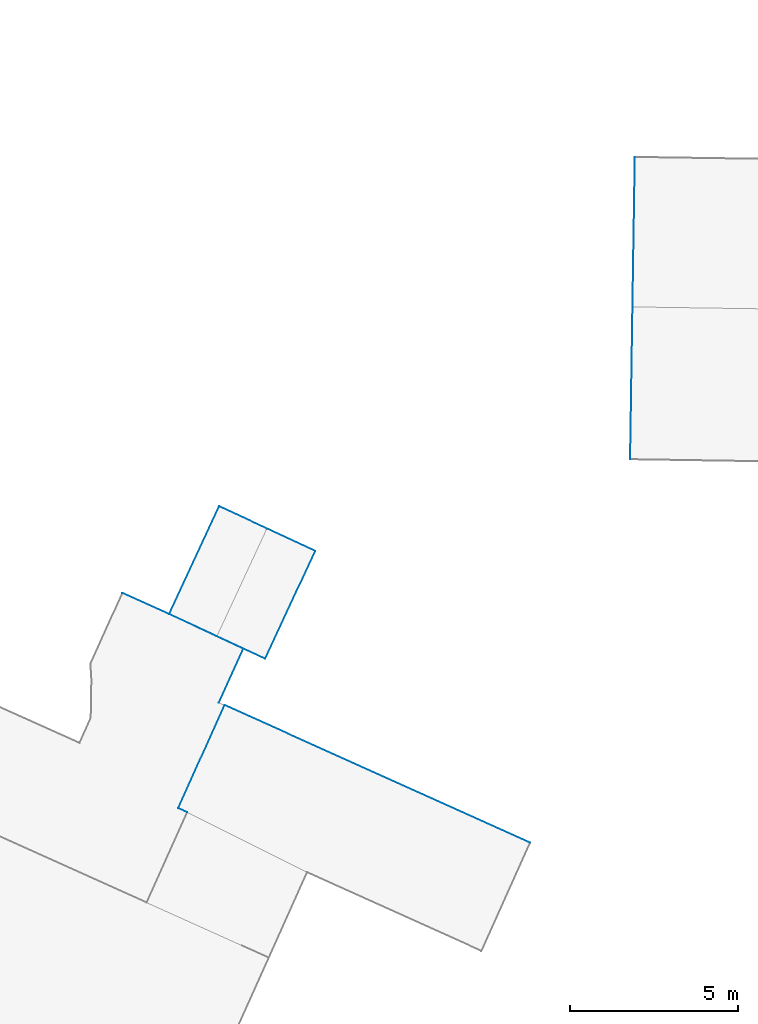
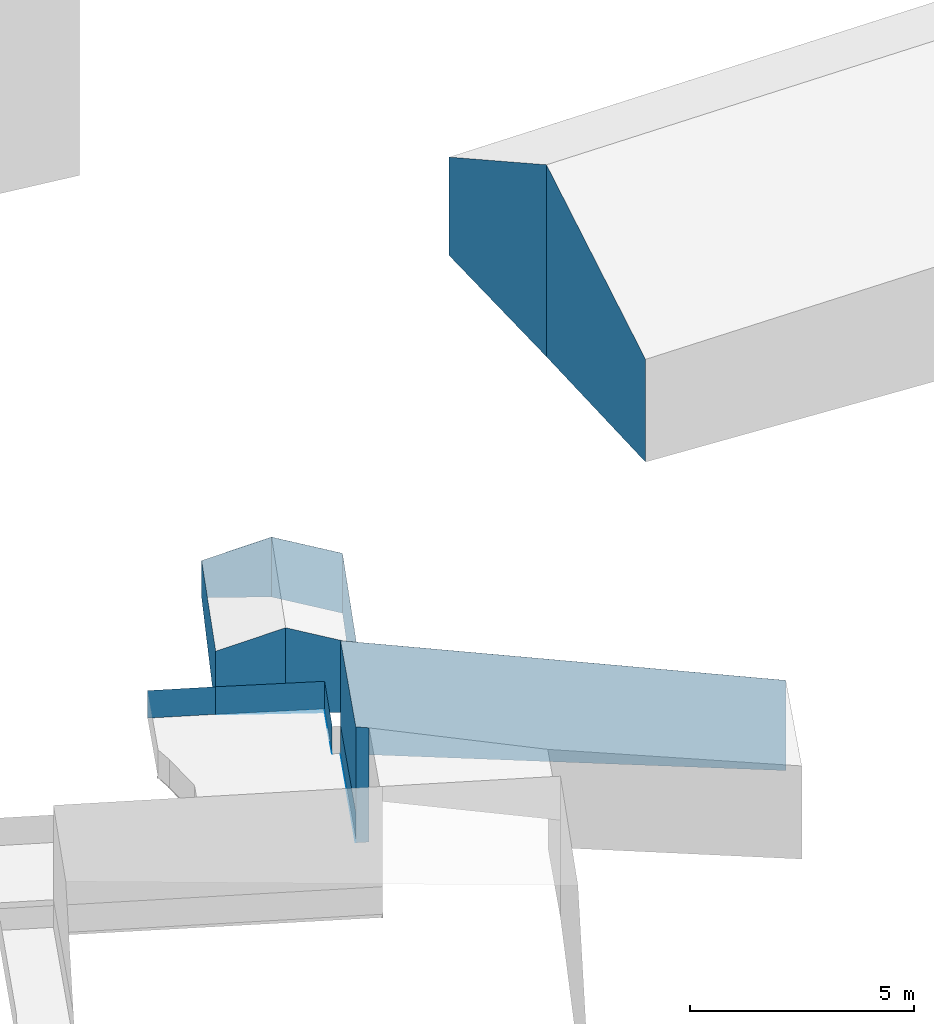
# Not in any storey, part 59 of 136: 22 walls.
"""IFC4 building model written with IfcOpenShell, lengths in metres."""

from ifc_helpers import new_model, entity, si_unit, converted_unit, frame, origin, place, context, subcontext, project, spatial, face_set, surface_model, element, save


model = new_model("IFC4")

# Units and contexts
model_context = context("Model", 3, precision=1e-05, world=origin())
body_context = subcontext(model_context, "Body", "Model", "MODEL_VIEW")
ifc_project = project(units=[converted_unit("PLANEANGLEUNIT", "DEGREE", entity("IfcRatioMeasure", 0.0174532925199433), si_unit("PLANEANGLEUNIT", "RADIAN"), dimensions=[0, 0, 0, 0, 0, 0, 0]), si_unit("AREAUNIT", "SQUARE_METRE"), si_unit("LENGTHUNIT", "METRE")], contexts=[model_context])

# Site, building
site_placement = place(None, origin())
site = spatial("IfcSite", under=ifc_project, at=site_placement, Name="_site")
building_1_placement = place(site_placement, origin())
building_1 = spatial("IfcBuilding", under=site, at=building_1_placement, Name="_building")

# Walls
wall_1_placement = place(building_1_placement, origin())
element("IfcWall", 1, at=wall_1_placement, inside=building_1, Name="Wall", PredefinedType="NOTDEFINED", context=body_context, shape_type="SurfaceModel", body=[
    surface_model("IfcFaceBasedSurfaceModel", [(118.57, 105.12, 45.01), (120.06, 108.33, 45.01), (120.06, 108.33, 44.0), (118.57, 105.12, 43.287)], [face_set([[[0, 1, 2, 3]]])]),
])
wall_2_placement = place(building_1_placement, origin())
element("IfcWall", 2, at=wall_2_placement, inside=building_1, Name="Wall", PredefinedType="NOTDEFINED", context=body_context, shape_type="SurfaceModel", body=[
    surface_model("IfcFaceBasedSurfaceModel", [(119.99, 104.46, 45.55), (118.57, 105.12, 45.01), (118.57, 105.12, 43.287), (119.99, 104.46, 43.29)], [face_set([[[0, 1, 2, 3]]])]),
])
wall_3_placement = place(building_1_placement, origin())
element("IfcWall", 3, at=wall_3_placement, inside=building_1, Name="Wall", PredefinedType="NOTDEFINED", context=body_context, shape_type="SurfaceModel", body=[
    surface_model("IfcFaceBasedSurfaceModel", [(121.48, 107.67, 45.55), (122.92, 107.0, 45.01), (122.92, 107.0, 43.379), (121.48, 107.67, 43.917)], [face_set([[[0, 1, 2, 3]]])]),
])
wall_4_placement = place(building_1_placement, origin())
element("IfcWall", 4, at=wall_4_placement, inside=building_1, Name="Wall", PredefinedType="NOTDEFINED", context=body_context, shape_type="SurfaceModel", body=[
    surface_model("IfcFaceBasedSurfaceModel", [(118.57, 105.12, 43.29), (120.78, 104.09, 43.29), (120.78, 104.09, 44.04), (118.57, 105.12, 44.04)], [face_set([[[0, 1, 2, 3]]])]),
])
wall_5_placement = place(building_1_placement, origin())
element("IfcWall", 5, at=wall_5_placement, inside=building_1, Name="Wall", PredefinedType="NOTDEFINED", context=body_context, shape_type="SurfaceModel", body=[
    surface_model("IfcFaceBasedSurfaceModel", [(118.57, 105.12, 43.29), (120.78, 104.09, 43.29), (120.78, 104.09, 43.194), (118.57, 105.12, 43.287)], [face_set([[[0, 1, 2, 3]]])]),
])
wall_6_placement = place(building_1_placement, origin())
element("IfcWall", 6, at=wall_6_placement, inside=building_1, Name="Wall", PredefinedType="NOTDEFINED", context=body_context, shape_type="SurfaceModel", body=[
    surface_model("IfcFaceBasedSurfaceModel", [(120.06, 108.33, 45.01), (121.48, 107.67, 45.55), (121.48, 107.67, 43.917), (120.06, 108.33, 44.0)], [face_set([[[0, 1, 2, 3]]])]),
])
wall_7_placement = place(building_1_placement, origin())
element("IfcWall", 7, at=wall_7_placement, inside=building_1, Name="Wall", PredefinedType="NOTDEFINED", context=body_context, shape_type="SurfaceModel", body=[
    surface_model("IfcFaceBasedSurfaceModel", [(118.57, 105.12, 43.29), (120.78, 104.09, 43.29), (120.78, 104.09, 44.04), (118.57, 105.12, 44.04)], [face_set([[[0, 1, 2, 3]]])]),
])
wall_8_placement = place(building_1_placement, origin())
element("IfcWall", 8, at=wall_8_placement, inside=building_1, Name="Wall", PredefinedType="NOTDEFINED", context=body_context, shape_type="SurfaceModel", body=[
    surface_model("IfcFaceBasedSurfaceModel", [(122.92, 107.0, 45.01), (121.43, 103.79, 45.01), (121.43, 103.79, 43.124), (122.92, 107.0, 43.379)], [face_set([[[0, 1, 2, 3]]])]),
])
wall_9_placement = place(building_1_placement, origin())
element("IfcWall", 9, at=wall_9_placement, inside=building_1, Name="Wall", PredefinedType="NOTDEFINED", context=body_context, shape_type="SurfaceModel", body=[
    surface_model("IfcFaceBasedSurfaceModel", [(121.43, 103.79, 45.01), (119.99, 104.46, 45.55), (119.99, 104.46, 43.29), (121.43, 103.79, 43.124)], [face_set([[[0, 1, 2, 3]]])]),
])

# Building
building_2_placement = place(site_placement, origin())
building_2 = spatial("IfcBuilding", under=site, at=building_2_placement, Name="_building")

# Walls
wall_10_placement = place(building_2_placement, origin())
element("IfcWall", 10, at=wall_10_placement, inside=building_2, Name="Wall", PredefinedType="NOTDEFINED", context=body_context, shape_type="SurfaceModel", body=[
    surface_model("IfcFaceBasedSurfaceModel", [(117.18, 105.75, 43.29), (118.57, 105.12, 43.29), (118.57, 105.12, 44.04), (117.18, 105.75, 44.04)], [face_set([[[0, 1, 2, 3]]])]),
])
wall_11_placement = place(building_2_placement, origin())
element("IfcWall", 11, at=wall_11_placement, inside=building_2, Name="Wall", PredefinedType="NOTDEFINED", context=body_context, shape_type="SurfaceModel", body=[
    surface_model("IfcFaceBasedSurfaceModel", [(120.78, 104.09, 43.29), (120.05, 102.49, 43.29), (120.05, 102.49, 44.04), (120.78, 104.09, 44.04)], [face_set([[[0, 1, 2, 3]]])]),
])
wall_12_placement = place(building_2_placement, origin())
element("IfcWall", 12, at=wall_12_placement, inside=building_2, Name="Wall", PredefinedType="NOTDEFINED", context=body_context, shape_type="SurfaceModel", body=[
    surface_model("IfcFaceBasedSurfaceModel", [(117.18, 105.75, 43.29), (118.57, 105.12, 43.29), (118.57, 105.12, 44.04), (117.18, 105.75, 44.04)], [face_set([[[0, 1, 2, 3]]])]),
])
wall_13_placement = place(building_2_placement, origin())
element("IfcWall", 13, at=wall_13_placement, inside=building_2, Name="Wall", PredefinedType="NOTDEFINED", context=body_context, shape_type="SurfaceModel", body=[
    surface_model("IfcFaceBasedSurfaceModel", [(120.78, 104.09, 43.29), (120.05, 102.49, 43.29), (120.05, 102.49, 43.281), (120.78, 104.09, 43.194)], [face_set([[[0, 1, 2, 3]]])]),
])
wall_14_placement = place(building_2_placement, origin())
element("IfcWall", 14, at=wall_14_placement, inside=building_2, Name="Wall", PredefinedType="NOTDEFINED", context=body_context, shape_type="SurfaceModel", body=[
    surface_model("IfcFaceBasedSurfaceModel", [(120.78, 104.09, 43.29), (120.05, 102.49, 43.29), (120.05, 102.49, 44.04), (120.78, 104.09, 44.04)], [face_set([[[0, 1, 2, 3]]])]),
])

# Building
building_3_placement = place(site_placement, origin())
building_3 = spatial("IfcBuilding", under=site, at=building_3_placement, Name="_building")

# Walls
wall_15_placement = place(building_3_placement, origin())
element("IfcWall", 15, at=wall_15_placement, inside=building_3, Name="Wall", PredefinedType="NOTDEFINED", context=body_context, shape_type="SurfaceModel", body=[
    surface_model("IfcFaceBasedSurfaceModel", [(132.37, 114.271, 47.87), (132.44, 118.73, 45.35), (132.44, 118.73, 42.671), (132.37, 114.271, 42.646)], [face_set([[[0, 1, 2, 3]]])]),
])
wall_16_placement = place(building_3_placement, origin())
element("IfcWall", 16, at=wall_16_placement, inside=building_3, Name="Wall", PredefinedType="NOTDEFINED", context=body_context, shape_type="SurfaceModel", body=[
    surface_model("IfcFaceBasedSurfaceModel", [(132.3, 109.73, 45.35), (132.37, 114.271, 47.87), (132.37, 114.271, 42.646), (132.3, 109.73, 42.555)], [face_set([[[0, 1, 2, 3]]])]),
])

# Building
building_4_placement = place(site_placement, origin())
building_4 = spatial("IfcBuilding", under=site, at=building_4_placement, Name="_building")

# Walls
wall_17_placement = place(building_4_placement, origin())
element("IfcWall", 17, at=wall_17_placement, inside=building_4, Name="Wall", PredefinedType="NOTDEFINED", context=body_context, shape_type="SurfaceModel", body=[
    surface_model("IfcFaceBasedSurfaceModel", [(118.84, 99.34, 46.36), (120.22, 102.41, 46.36), (120.22, 102.41, 43.284), (118.84, 99.34, 43.201)], [face_set([[[0, 1, 2, 3]]])]),
])
wall_18_placement = place(building_4_placement, origin())
element("IfcWall", 18, at=wall_18_placement, inside=building_4, Name="Wall", PredefinedType="NOTDEFINED", context=body_context, shape_type="SurfaceModel", body=[
    surface_model("IfcFaceBasedSurfaceModel", [(120.22, 102.41, 43.29), (118.84, 99.34, 43.29), (118.84, 99.34, 43.201), (120.22, 102.41, 43.284)], [face_set([[[0, 1, 2, 3]]])]),
])
wall_19_placement = place(building_4_placement, origin())
element("IfcWall", 19, at=wall_19_placement, inside=building_4, Name="Wall", PredefinedType="NOTDEFINED", context=body_context, shape_type="SurfaceModel", body=[
    surface_model("IfcFaceBasedSurfaceModel", [(119.11, 99.22, 46.31), (118.84, 99.34, 46.36), (118.84, 99.34, 43.201), (119.11, 99.22, 43.201)], [face_set([[[0, 1, 2, 3]]])]),
])
for number, where, name in (
    (20, (0.0, 0.0, 0.0), "Wall"),
    (21, (0.0, 0.0, 0.0), "Wall"),
):
    element("IfcWall", number, at=place(building_4_placement, frame(where)), inside=building_4, Name=name, PredefinedType="NOTDEFINED", context=body_context, shape_type="SurfaceModel", body=[
        surface_model("IfcFaceBasedSurfaceModel", [(120.22, 102.41, 43.29), (118.84, 99.34, 43.29), (118.84, 99.34, 44.04), (120.22, 102.41, 44.04)], [face_set([[[0, 1, 2, 3]]])]),
    ])
wall_20_placement = place(building_4_placement, origin())
element("IfcWall", 22, at=wall_20_placement, inside=building_4, Name="Wall", PredefinedType="NOTDEFINED", context=body_context, shape_type="SurfaceModel", body=[
    surface_model("IfcFaceBasedSurfaceModel", [(120.22, 102.41, 46.36), (129.32, 98.311, 44.58), (129.32, 98.311, 42.123), (120.22, 102.41, 43.284)], [face_set([[[0, 1, 2, 3]]])]),
])

save(model, "model.ifc")
